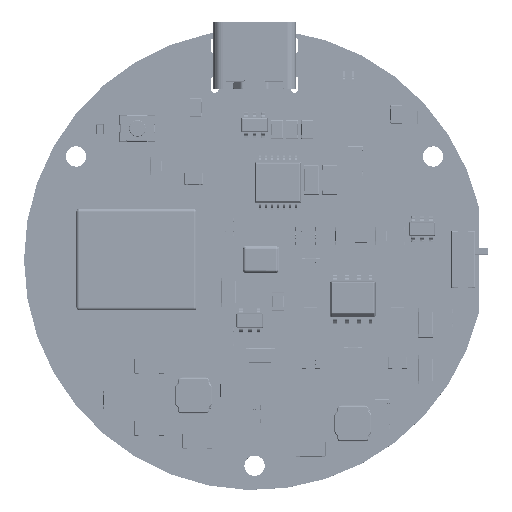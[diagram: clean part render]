
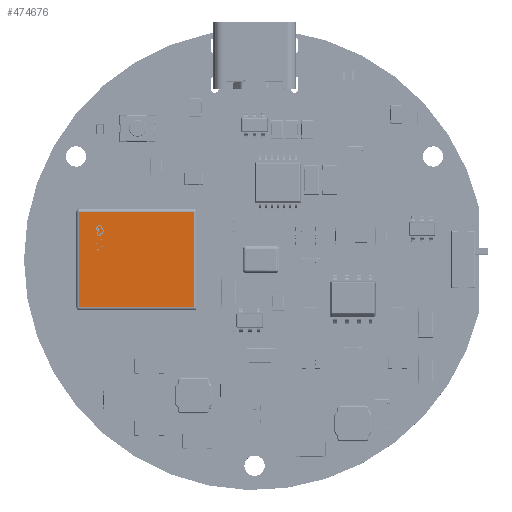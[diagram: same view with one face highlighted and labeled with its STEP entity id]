
A CAD part, top view. The second image highlights one B-rep face of the part: STEP entity #474676.
In plain terms, the highlighted planar face has unit normal (0, 0, 1).
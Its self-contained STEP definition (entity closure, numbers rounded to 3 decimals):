
#465377=CARTESIAN_POINT('NONE',(0.,7.7,3.));
#467733=VECTOR('NONE',#483469,1000.);
#467837 = LINE('NONE',#474497,#481406) ;
#468037 = EDGE_LOOP('NONE',(#482341,#474186,#472730,#485274)) ;
#468157=DIRECTION('NONE',(-1.,0.,0.));
#468473=DIRECTION('NONE',(0.,0.,-1.));
#469754 = LINE('NONE',#477955,#476222) ;
#469786 = PLANE('NONE',#471879) ;
#470008=CARTESIAN_POINT('NONE',(0.,0.,3.));
#470286=CARTESIAN_POINT('NONE',(5.2,-4.7,3.));
#471879=AXIS2_PLACEMENT_3D('NONE',#470008,#468473,#468157);
#472124 = VERTEX_POINT('NONE',#470286) ;
#472730 = ORIENTED_EDGE('NONE',*,*,#478074,.T.) ;
#472943 = EDGE_CURVE('NONE',#477470,#473043,#469754,.T.) ;
#473043 = VERTEX_POINT('NONE',#480225) ;
#474186 = ORIENTED_EDGE('NONE',*,*,#472943,.T.) ;
#474497=CARTESIAN_POINT('NONE',(5.2,0.,3.));
#474676 = ADVANCED_FACE('NONE',(#476765),#469786,.F.) ;
#474972 = LINE('NONE',#485222,#467733) ;
#475946 = LINE('NONE',#465377,#481666) ;
#476222=VECTOR('NONE',#484615,1000.);
#476765 = FACE_OUTER_BOUND('NONE',#468037,.T.) ;
#476973=DIRECTION('NONE',(-1.,0.,0.));
#477470 = VERTEX_POINT('NONE',#481902) ;
#477560=CARTESIAN_POINT('NONE',(5.2,7.7,3.));
#477833 = EDGE_CURVE('NONE',#483596,#477470,#475946,.T.) ;
#477955=CARTESIAN_POINT('NONE',(-5.2,0.,3.));
#478074 = EDGE_CURVE('NONE',#473043,#472124,#474972,.T.) ;
#479321 = EDGE_CURVE('NONE',#472124,#483596,#467837,.T.) ;
#480225=CARTESIAN_POINT('NONE',(-5.2,-4.7,3.));
#481133=DIRECTION('NONE',(0.,1.,0.));
#481406=VECTOR('NONE',#481133,1000.);
#481666=VECTOR('NONE',#476973,1000.);
#481902=CARTESIAN_POINT('NONE',(-5.2,7.7,3.));
#482341 = ORIENTED_EDGE('NONE',*,*,#477833,.T.) ;
#483469=DIRECTION('NONE',(1.,0.,0.));
#483596 = VERTEX_POINT('NONE',#477560) ;
#484615=DIRECTION('NONE',(0.,-1.,0.));
#485222=CARTESIAN_POINT('NONE',(0.,-4.7,3.));
#485274 = ORIENTED_EDGE('NONE',*,*,#479321,.T.) ;
